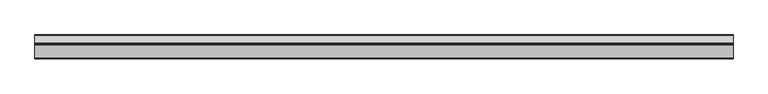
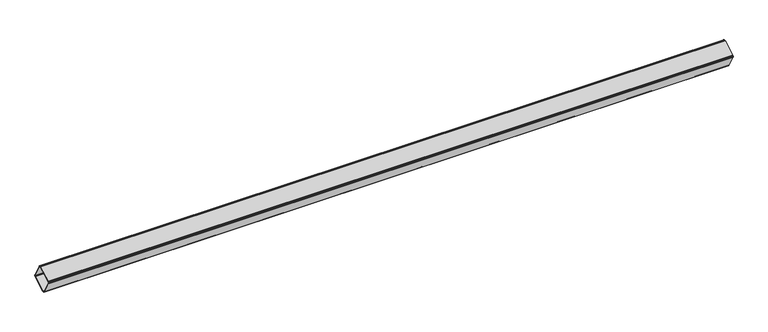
"""IFC4 building model written with IfcOpenShell, lengths in millimetres: beam geometry, Buton 157536 : Buton 157536."""

from ifc_helpers import new_model, si_unit, frame, origin, place, context, project, spatial, polyline, outline, extrude, source, transform, mapped, element, save


def beam_a21e0780(model_context):
    return source(origin(), model_context, "Body", "SweptSolid", [
        extrude(outline(polyline([(2.5029514, 0.0), (85.468772, -13.1404951), (87.8492203, -13.9139496), (89.8741506, -15.3851475), (91.3453486, -17.4100778), (92.1188031, -19.7905261), (92.1188031, -22.2934775), (78.978308, -105.2592982), (78.2048534, -107.6397464), (76.7336555, -109.6646767), (74.7087253, -111.1358746), (72.328277, -111.9093292), (69.8253256, -111.9093291), (-13.1404951, -98.7688341), (-15.5209433, -97.9953795), (-17.5458735, -96.5241816), (-19.0170716, -94.4992513), (-19.7905261, -92.1188031), (-19.7905261, -89.6158516), (-6.650031, -6.650031), (-5.8765765, -4.2695828), (-4.4053786, -2.2446525), (-2.3804482, -0.7734545), (0.0, 0.0), (2.5029514, 0.0)]), holes=[polyline([(-2.6992777, -7.2757688), (-15.8397727, -90.2415895), (-15.8397727, -91.4930652), (-15.4530455, -92.6832893), (-14.7174465, -93.6957545), (-13.7049814, -94.4313534), (-12.5147572, -94.8180807), (70.4510634, -107.9585758), (71.7025392, -107.9585757), (72.8927633, -107.5718485), (73.9052284, -106.8362496), (74.6408273, -105.8237844), (75.0275546, -104.6335603), (88.1680497, -21.6677397), (88.1680497, -20.416264), (87.7813224, -19.2260399), (87.0457235, -18.2135747), (86.0332583, -17.4779757), (84.8430342, -17.0912484), (1.8772135, -3.9507534), (0.6257379, -3.9507534), (-0.5644862, -4.3374806), (-1.5769514, -5.0730796), (-2.3125504, -6.0855447), (-2.6992777, -7.2757688)])]), frame((11557.2815707, -26355.9966128, 9777.4270819), z_axis=(1.0, 0.0, 2.415781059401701e-11), x_axis=(-1.4916527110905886e-11, 0.7866008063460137, 0.6174618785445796)), (0.0, 0.0, 1.0), 3782.7184292),
    ])


if __name__ == "__main__":
    model = new_model("IFC4")
    model_context = context("Model", 3, world=origin())
    ifc_project = project(units=[si_unit("LENGTHUNIT", "METRE", prefix="MILLI")], contexts=[model_context])
    site = spatial("IfcSite", under=ifc_project)
    building = spatial("IfcBuilding", under=site)
    placement = place(None, origin())
    beam_shape = beam_a21e0780(model_context)
    element("IfcBeam", 1, ObjectType="Buton 157536 : Buton 157536", at=placement, inside=building, context=model_context, shape_type="MappedRepresentation", body=[
        mapped(beam_shape, transform((0.0, 0.0, 0.0), x_axis=(1.0, 0.0, 0.0), y_axis=(0.0, 1.0, 0.0), z_axis=(0.0, 0.0, 1.0))),
    ])
    save(model, "model.ifc")
